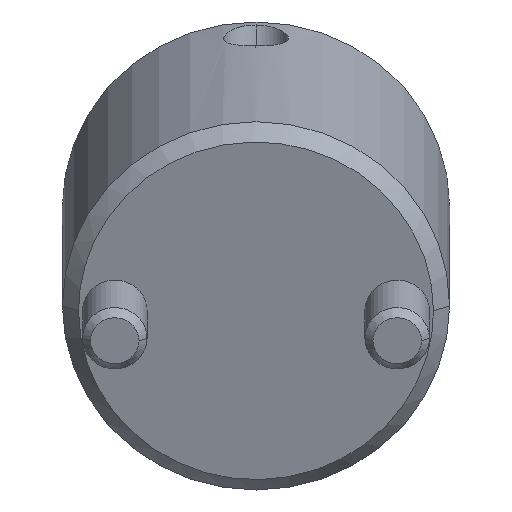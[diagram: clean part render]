
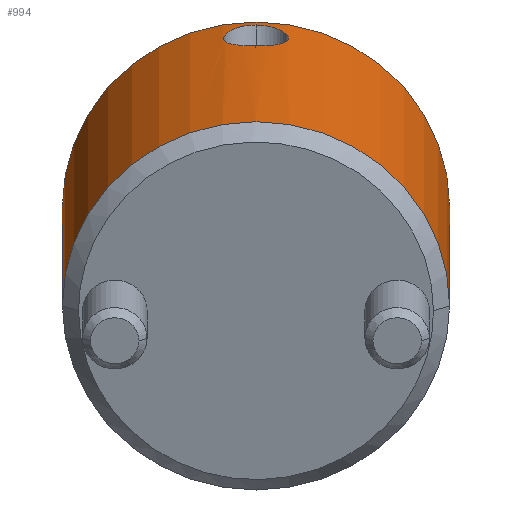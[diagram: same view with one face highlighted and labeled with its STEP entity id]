
A CAD part, front view. The second image highlights one B-rep face of the part: STEP entity #994.
In plain terms, the highlighted cylindrical face has radius 12 mm (diameter 24 mm), a partial arc.
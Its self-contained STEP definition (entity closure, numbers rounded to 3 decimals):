
#760=CARTESIAN_POINT('Vertex',(0.,12.,1.)) ;
#763=CARTESIAN_POINT('Axis2P3D Location',(0.,0.,1.)) ;
#767=CARTESIAN_POINT('Vertex',(0.,-12.,1.)) ;
#907=CARTESIAN_POINT('Axis2P3D Location',(0.,0.,-1.1)) ;
#912=CARTESIAN_POINT('Line Origine',(0.,12.,-1.1)) ;
#916=CARTESIAN_POINT('Vertex',(0.,12.,21.)) ;
#919=CARTESIAN_POINT('Axis2P3D Location',(0.,0.,21.)) ;
#923=CARTESIAN_POINT('Vertex',(0.,-12.,21.)) ;
#926=CARTESIAN_POINT('Line Origine',(0.,-12.,-1.1)) ;
#938=CARTESIAN_POINT('Control Point',(12.,0.,20.403)) ;
#939=CARTESIAN_POINT('Control Point',(12.,0.341,20.403)) ;
#940=CARTESIAN_POINT('Control Point',(11.988,0.671,20.324)) ;
#941=CARTESIAN_POINT('Control Point',(11.964,0.986,20.166)) ;
#942=CARTESIAN_POINT('Control Point',(11.924,1.367,19.862)) ;
#943=CARTESIAN_POINT('Control Point',(11.886,1.651,19.463)) ;
#944=CARTESIAN_POINT('Control Point',(11.876,1.726,19.337)) ;
#945=CARTESIAN_POINT('Control Point',(11.856,1.854,19.075)) ;
#946=CARTESIAN_POINT('Control Point',(11.842,1.939,18.795)) ;
#947=CARTESIAN_POINT('Control Point',(11.837,1.97,18.649)) ;
#948=CARTESIAN_POINT('Control Point',(11.831,2.009,18.363)) ;
#949=CARTESIAN_POINT('Control Point',(11.832,2.,18.074)) ;
#950=CARTESIAN_POINT('Control Point',(11.835,1.984,17.931)) ;
#951=CARTESIAN_POINT('Control Point',(11.844,1.93,17.652)) ;
#952=CARTESIAN_POINT('Control Point',(11.86,1.83,17.388)) ;
#953=CARTESIAN_POINT('Control Point',(11.869,1.77,17.263)) ;
#954=CARTESIAN_POINT('Control Point',(11.89,1.629,17.023)) ;
#955=CARTESIAN_POINT('Control Point',(11.913,1.449,16.811)) ;
#956=CARTESIAN_POINT('Control Point',(11.924,1.351,16.714)) ;
#957=CARTESIAN_POINT('Control Point',(11.956,1.059,16.473)) ;
#958=CARTESIAN_POINT('Control Point',(11.982,0.714,16.305)) ;
#959=CARTESIAN_POINT('Control Point',(11.994,0.482,16.233)) ;
#960=CARTESIAN_POINT('Control Point',(12.,0.243,16.197)) ;
#961=CARTESIAN_POINT('Control Point',(12.,0.,16.197)) ;
#962=CARTESIAN_POINT('Vertex',(12.,0.,20.403)) ;
#964=CARTESIAN_POINT('Vertex',(12.,0.,16.197)) ;
#968=CARTESIAN_POINT('Control Point',(12.,0.,16.197)) ;
#969=CARTESIAN_POINT('Control Point',(12.,-0.277,16.197)) ;
#970=CARTESIAN_POINT('Control Point',(11.992,-0.549,16.243)) ;
#971=CARTESIAN_POINT('Control Point',(11.976,-0.815,16.339)) ;
#972=CARTESIAN_POINT('Control Point',(11.945,-1.178,16.546)) ;
#973=CARTESIAN_POINT('Control Point',(11.91,-1.473,16.837)) ;
#974=CARTESIAN_POINT('Control Point',(11.898,-1.562,16.941)) ;
#975=CARTESIAN_POINT('Control Point',(11.865,-1.806,17.285)) ;
#976=CARTESIAN_POINT('Control Point',(11.84,-1.957,17.684)) ;
#977=CARTESIAN_POINT('Control Point',(11.83,-2.011,17.97)) ;
#978=CARTESIAN_POINT('Control Point',(11.829,-2.022,18.405)) ;
#979=CARTESIAN_POINT('Control Point',(11.844,-1.93,18.83)) ;
#980=CARTESIAN_POINT('Control Point',(11.851,-1.887,18.97)) ;
#981=CARTESIAN_POINT('Control Point',(11.868,-1.78,19.243)) ;
#982=CARTESIAN_POINT('Control Point',(11.889,-1.63,19.494)) ;
#983=CARTESIAN_POINT('Control Point',(11.901,-1.545,19.614)) ;
#984=CARTESIAN_POINT('Control Point',(11.937,-1.255,19.958)) ;
#985=CARTESIAN_POINT('Control Point',(11.972,-0.885,20.214)) ;
#986=CARTESIAN_POINT('Control Point',(11.99,-0.603,20.339)) ;
#987=CARTESIAN_POINT('Control Point',(12.,-0.306,20.403)) ;
#988=CARTESIAN_POINT('Control Point',(12.,0.,20.403)) ;
#764=DIRECTION('Axis2P3D Direction',(0.,0.,1.)) ;
#908=DIRECTION('Axis2P3D Direction',(0.,-0.,1.)) ;
#909=DIRECTION('Axis2P3D XDirection',(0.,-1.,0.)) ;
#913=DIRECTION('Vector Direction',(0.,0.,1.)) ;
#920=DIRECTION('Axis2P3D Direction',(0.,-0.,1.)) ;
#927=DIRECTION('Vector Direction',(0.,0.,1.)) ;
#765=AXIS2_PLACEMENT_3D('Circle Axis2P3D',#763,#764,$) ;
#910=AXIS2_PLACEMENT_3D('Cylinder Axis2P3D',#907,#908,#909) ;
#921=AXIS2_PLACEMENT_3D('Circle Axis2P3D',#919,#920,$) ;
#932=ORIENTED_EDGE('',*,*,#918,.F.) ;
#933=ORIENTED_EDGE('',*,*,#925,.T.) ;
#934=ORIENTED_EDGE('',*,*,#930,.T.) ;
#935=ORIENTED_EDGE('',*,*,#769,.F.) ;
#991=ORIENTED_EDGE('',*,*,#966,.T.) ;
#992=ORIENTED_EDGE('',*,*,#989,.T.) ;
#993=FACE_BOUND('',#990,.T.) ;
#914=VECTOR('Line Direction',#913,1.) ;
#928=VECTOR('Line Direction',#927,1.) ;
#994=ADVANCED_FACE('MANIFOLD_SOLID_BREP #1094',(#936,#993),#911,.T.) ;
#937=B_SPLINE_CURVE_WITH_KNOTS('',5,(#938,#939,#940,#941,#942,#943,#944,#945,#946,#947,#948,#949,#950,#951,#952,#953,#954,#955,#956,#957,#958,#959,#960,#961),.UNSPECIFIED.,.F.,.U.,(6,3,3,3,3,3,3,6),(0.,2.411,3.437,4.458,5.457,6.442,7.421,9.138),.UNSPECIFIED.) ;
#967=B_SPLINE_CURVE_WITH_KNOTS('',5,(#968,#969,#970,#971,#972,#973,#974,#975,#976,#977,#978,#979,#980,#981,#982,#983,#984,#985,#986,#987,#988),.UNSPECIFIED.,.F.,.U.,(6,3,3,3,3,3,6),(0.,1.96,2.94,4.935,5.963,6.984,9.144),.UNSPECIFIED.) ;
#766=CIRCLE('generated circle',#765,12.) ;
#922=CIRCLE('generated circle',#921,12.) ;
#911=CYLINDRICAL_SURFACE('generated cylinder',#910,12.) ;
#769=EDGE_CURVE('',#761,#768,#766,.F.) ;
#918=EDGE_CURVE('',#917,#761,#915,.F.) ;
#925=EDGE_CURVE('',#917,#924,#922,.F.) ;
#930=EDGE_CURVE('',#924,#768,#929,.F.) ;
#966=EDGE_CURVE('',#963,#965,#937,.T.) ;
#989=EDGE_CURVE('',#965,#963,#967,.T.) ;
#931=EDGE_LOOP('',(#932,#933,#934,#935)) ;
#990=EDGE_LOOP('',(#991,#992)) ;
#936=FACE_OUTER_BOUND('',#931,.T.) ;
#915=LINE('Line',#912,#914) ;
#929=LINE('Line',#926,#928) ;
#761=VERTEX_POINT('',#760) ;
#768=VERTEX_POINT('',#767) ;
#917=VERTEX_POINT('',#916) ;
#924=VERTEX_POINT('',#923) ;
#963=VERTEX_POINT('',#962) ;
#965=VERTEX_POINT('',#964) ;
